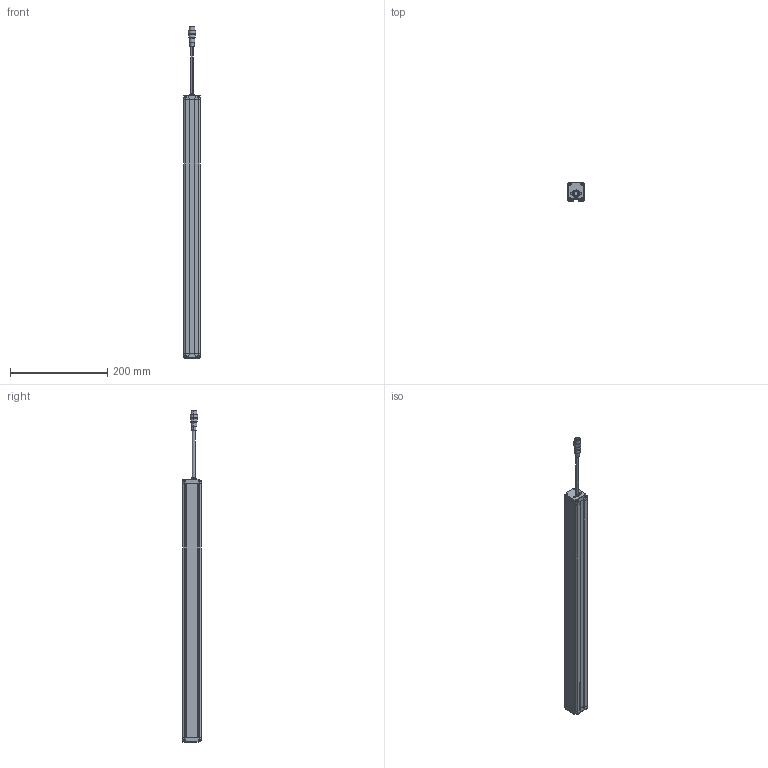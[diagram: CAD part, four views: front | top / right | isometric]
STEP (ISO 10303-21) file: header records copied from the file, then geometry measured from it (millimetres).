
FILE_DESCRIPTION((''),'2;1');
FILE_NAME('CT6-0512','2026-03-31T10:18:39',('Administrator'),(''),'CREO PARAMETRIC BY PTC INC, 2016510','CREO PARAMETRIC BY PTC INC, 2016510','');
FILE_SCHEMA(('AUTOMOTIVE_DESIGN { 1 0 10303 214 1 1 1 1 }'));
Length unit declared in the file: millimetre
Products named in the file (1): CT6-0512
Bounding box: 33 x 38 x 681.9 mm (x, y, z)
Surface area: 126282 mm2 (no closed solid volume)
Topology: 0 solids, 12 shells, 819 faces, 2208 edges, 1416 vertices
Faces by surface type: plane 388, cylinder 235, extrusion 88, sphere 40, torus 36, cone 28, bspline 4
Entity records: 32625 total; most frequent: CARTESIAN_POINT 6183, ORIENTED_EDGE 4328, DIRECTION 4054, EDGE_CURVE 2164, VERTEX_POINT 1416, AXIS2_PLACEMENT_3D 1380, VECTOR 1294, LINE 1206
